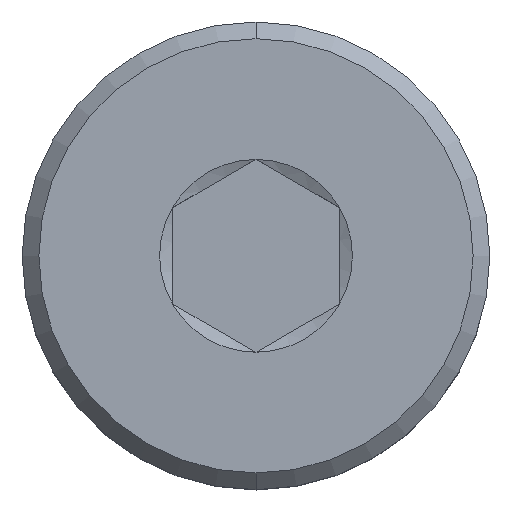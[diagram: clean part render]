
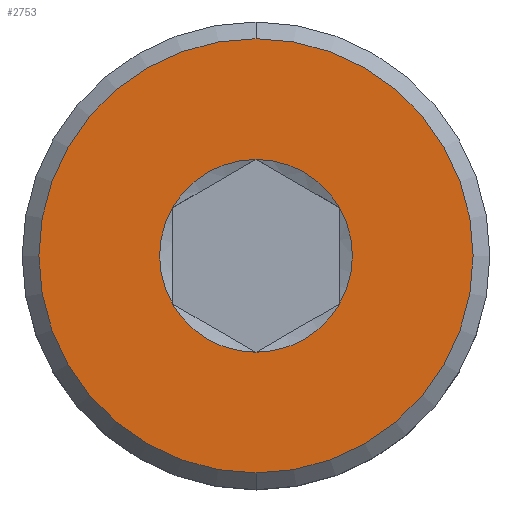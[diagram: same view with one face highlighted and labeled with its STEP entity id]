
A CAD part, top view. The second image highlights one B-rep face of the part: STEP entity #2753.
In plain terms, the highlighted planar face has unit normal (0, 0, 1).
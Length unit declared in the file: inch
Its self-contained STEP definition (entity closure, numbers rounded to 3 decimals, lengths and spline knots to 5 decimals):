
#43 = VERTEX_POINT ( 'NONE', #5932 ) ;
#45 = AXIS2_PLACEMENT_3D ( 'NONE', #2807, #2364, #1861 ) ;
#54 = VERTEX_POINT ( 'NONE', #1607 ) ;
#95 = EDGE_LOOP ( 'NONE', ( #4367, #4722 ) ) ;
#298 = CARTESIAN_POINT ( 'NONE',  ( 0., 0.12795, 0. ) ) ;
#324 = CIRCLE ( 'NONE', #2875, 0.05683 ) ;
#348 = ORIENTED_EDGE ( 'NONE', *, *, #2985, .F. ) ;
#409 = AXIS2_PLACEMENT_3D ( 'NONE', #4158, #2210, #6115 ) ;
#466 = CIRCLE ( 'NONE', #6229, 0.05683 ) ;
#476 = DIRECTION ( 'NONE',  ( 0., -1., 0. ) ) ;
#479 = EDGE_CURVE ( 'NONE', #54, #718, #3278, .T. ) ;
#549 = VERTEX_POINT ( 'NONE', #5214 ) ;
#570 = AXIS2_PLACEMENT_3D ( 'NONE', #2326, #1896, #1360 ) ;
#618 = CARTESIAN_POINT ( 'NONE',  ( 0., 0.12795, 0. ) ) ;
#636 = ORIENTED_EDGE ( 'NONE', *, *, #2571, .F. ) ;
#694 = FACE_BOUND ( 'NONE', #1032, .T. ) ;
#718 = VERTEX_POINT ( 'NONE', #2421 ) ;
#868 = DIRECTION ( 'NONE',  ( 0., 0., 1. ) ) ;
#1032 = EDGE_LOOP ( 'NONE', ( #636, #1186, #4125, #348, #4654, #6159 ) ) ;
#1045 = CIRCLE ( 'NONE', #45, 0.12795 ) ;
#1063 = FACE_OUTER_BOUND ( 'NONE', #95, .T. ) ;
#1186 = ORIENTED_EDGE ( 'NONE', *, *, #2094, .F. ) ;
#1359 = DIRECTION ( 'NONE',  ( 0., -1., 0. ) ) ;
#1360 = DIRECTION ( 'NONE',  ( 0., -1., 0. ) ) ;
#1431 = DIRECTION ( 'NONE',  ( 0., 0., 1. ) ) ;
#1607 = CARTESIAN_POINT ( 'NONE',  ( 0.04921, -0.02841, 0. ) ) ;
#1729 = CARTESIAN_POINT ( 'NONE',  ( 0., 0., 0. ) ) ;
#1861 = DIRECTION ( 'NONE',  ( 0., 1., 0. ) ) ;
#1896 = DIRECTION ( 'NONE',  ( 0., 0., 1. ) ) ;
#1951 = CARTESIAN_POINT ( 'NONE',  ( 0., 0., 0. ) ) ;
#2030 = DIRECTION ( 'NONE',  ( 0., 0., 1. ) ) ;
#2094 = EDGE_CURVE ( 'NONE', #4753, #43, #6133, .T. ) ;
#2210 = DIRECTION ( 'NONE',  ( 0., 0., 1. ) ) ;
#2282 = CARTESIAN_POINT ( 'NONE',  ( -0.04921, -0.02841, 0. ) ) ;
#2326 = CARTESIAN_POINT ( 'NONE',  ( 0., 0., 0. ) ) ;
#2364 = DIRECTION ( 'NONE',  ( 0., 0., -1. ) ) ;
#2421 = CARTESIAN_POINT ( 'NONE',  ( 0.04921, 0.02841, 0. ) ) ;
#2451 = EDGE_CURVE ( 'NONE', #2897, #4753, #466, .T. ) ;
#2532 = CARTESIAN_POINT ( 'NONE',  ( 0., 0., 0. ) ) ;
#2571 = EDGE_CURVE ( 'NONE', #43, #54, #324, .T. ) ;
#2753 = ADVANCED_FACE ( 'NONE', ( #694, #1063 ), #5006, .T. ) ;
#2757 = AXIS2_PLACEMENT_3D ( 'NONE', #1729, #5120, #5577 ) ;
#2807 = CARTESIAN_POINT ( 'NONE',  ( 0., 0., 0. ) ) ;
#2875 = AXIS2_PLACEMENT_3D ( 'NONE', #2532, #2030, #4410 ) ;
#2897 = VERTEX_POINT ( 'NONE', #5557 ) ;
#2985 = EDGE_CURVE ( 'NONE', #549, #2897, #5381, .T. ) ;
#3165 = EDGE_CURVE ( 'NONE', #4902, #6020, #5166, .T. ) ;
#3278 = CIRCLE ( 'NONE', #3450, 0.05683 ) ;
#3295 = CIRCLE ( 'NONE', #570, 0.05683 ) ;
#3450 = AXIS2_PLACEMENT_3D ( 'NONE', #5714, #868, #6204 ) ;
#4125 = ORIENTED_EDGE ( 'NONE', *, *, #2451, .F. ) ;
#4158 = CARTESIAN_POINT ( 'NONE',  ( 0., 0., 0. ) ) ;
#4253 = DIRECTION ( 'NONE',  ( 0., 0., 1. ) ) ;
#4301 = AXIS2_PLACEMENT_3D ( 'NONE', #618, #5033, #4586 ) ;
#4316 = CARTESIAN_POINT ( 'NONE',  ( 0., 0., 0. ) ) ;
#4367 = ORIENTED_EDGE ( 'NONE', *, *, #4740, .F. ) ;
#4410 = DIRECTION ( 'NONE',  ( 0., -1., 0. ) ) ;
#4586 = DIRECTION ( 'NONE',  ( 0., -1., 0. ) ) ;
#4654 = ORIENTED_EDGE ( 'NONE', *, *, #5031, .F. ) ;
#4722 = ORIENTED_EDGE ( 'NONE', *, *, #3165, .F. ) ;
#4740 = EDGE_CURVE ( 'NONE', #6020, #4902, #1045, .T. ) ;
#4753 = VERTEX_POINT ( 'NONE', #2282 ) ;
#4821 = CARTESIAN_POINT ( 'NONE',  ( 0., -0.12795, 0. ) ) ;
#4902 = VERTEX_POINT ( 'NONE', #4821 ) ;
#5006 = PLANE ( 'NONE',  #4301 ) ;
#5031 = EDGE_CURVE ( 'NONE', #718, #549, #3295, .T. ) ;
#5033 = DIRECTION ( 'NONE',  ( 0., 0., 1. ) ) ;
#5120 = DIRECTION ( 'NONE',  ( 0., 0., -1. ) ) ;
#5166 = CIRCLE ( 'NONE', #2757, 0.12795 ) ;
#5214 = CARTESIAN_POINT ( 'NONE',  ( 0., 0.05683, 0. ) ) ;
#5276 = AXIS2_PLACEMENT_3D ( 'NONE', #4316, #4253, #1359 ) ;
#5381 = CIRCLE ( 'NONE', #409, 0.05683 ) ;
#5557 = CARTESIAN_POINT ( 'NONE',  ( -0.04921, 0.02841, 0. ) ) ;
#5577 = DIRECTION ( 'NONE',  ( 0., 1., 0. ) ) ;
#5714 = CARTESIAN_POINT ( 'NONE',  ( 0., 0., 0. ) ) ;
#5932 = CARTESIAN_POINT ( 'NONE',  ( 0., -0.05683, 0. ) ) ;
#6020 = VERTEX_POINT ( 'NONE', #298 ) ;
#6115 = DIRECTION ( 'NONE',  ( 0., -1., 0. ) ) ;
#6133 = CIRCLE ( 'NONE', #5276, 0.05683 ) ;
#6159 = ORIENTED_EDGE ( 'NONE', *, *, #479, .F. ) ;
#6204 = DIRECTION ( 'NONE',  ( 0., -1., 0. ) ) ;
#6229 = AXIS2_PLACEMENT_3D ( 'NONE', #1951, #1431, #476 ) ;
